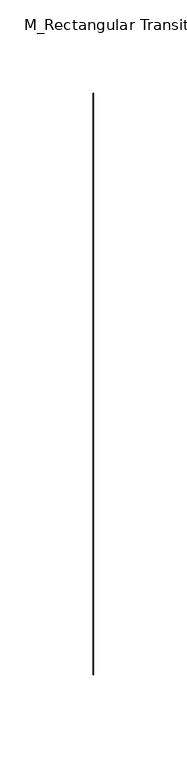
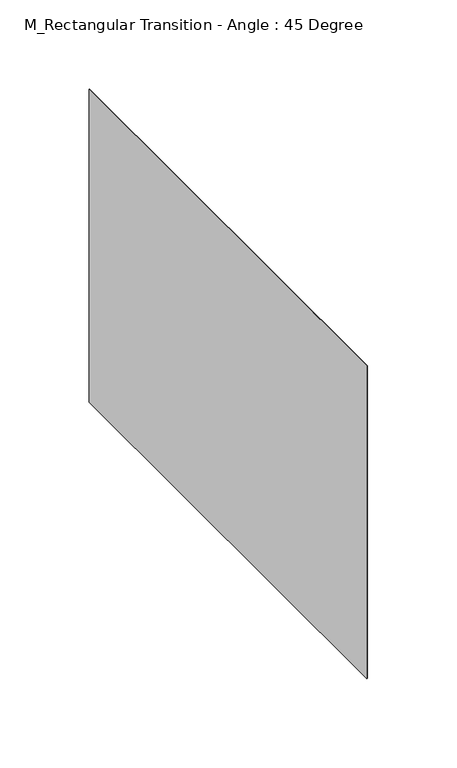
"""IFC4 building model written with IfcOpenShell, lengths in millimetres: duct fitting geometry, M_Rectangular Transition - Angle : 45 Degree."""

import ifcopenshell
import ifcopenshell.guid

model = None  # the IFC model being written
_history = None  # IfcOwnerHistory: only IFC2X3 demands one
_inside = {}  # id of a spatial element -> (the spatial element, [elements in it])
_under = {}  # id of a project, library or spatial element -> (it, [spatial elements below it])
_declared = {}  # id of a project -> (the project, [libraries it declares])
_typed = {}  # id of a type object -> (the type object, [elements of that type])
_made_of = {}  # id of a material, layer set ... -> (it, [elements and type objects made of it])


def new_model(schema):
    """Start an empty IFC model of exactly this schema.

    Asked for "IFC4X3", IfcOpenShell would pick the latest addendum, in which some entities
    have other attributes; the version numbers below select the first issue.
    IFC2X3 requires an IfcOwnerHistory on every rooted entity: one is made here for all.
    """
    global model, _history
    if schema == "IFC4X3":
        model = ifcopenshell.file(schema_version=(4, 3, 0, 0))
    else:
        model = ifcopenshell.file(schema=schema)
    _inside.clear()
    _under.clear()
    _declared.clear()
    _typed.clear()
    _made_of.clear()
    _history = None
    if model.schema == "IFC2X3":
        org = make("IfcOrganization", Name="unknown")
        user = make(
            "IfcPersonAndOrganization",
            ThePerson=make("IfcPerson", FamilyName="unknown"),
            TheOrganization=org,
        )
        app = make(
            "IfcApplication",
            ApplicationDeveloper=org,
            Version="unknown",
            ApplicationFullName="unknown",
            ApplicationIdentifier="unknown",
        )
        _history = make(
            "IfcOwnerHistory",
            OwningUser=user,
            OwningApplication=app,
            ChangeAction="ADDED",
            CreationDate=0,
        )
    return model


def make(cls, **values):
    """One entity of the class cls with the attributes given. An attribute that is None is left unset."""
    return model.create_entity(
        cls, **{name: value for name, value in values.items() if value is not None}
    )


def rooted(cls, **values):
    """An entity with a GlobalId (a new one), such as an element, a storey or a relation."""
    return make(cls, GlobalId=ifcopenshell.guid.new(), OwnerHistory=_history, **values)


def si_unit(unit_type, name, prefix=None):
    """IfcSIUnit, for example si_unit("LENGTHUNIT", "METRE", prefix="MILLI")."""
    return make("IfcSIUnit", UnitType=unit_type, Prefix=prefix, Name=name)


def assignment(units):
    """IfcUnitAssignment: the units of a project."""
    return None if units is None else make("IfcUnitAssignment", Units=units)


def point(xyz):
    """IfcCartesianPoint."""
    return None if xyz is None else make("IfcCartesianPoint", Coordinates=xyz)


def direction(xyz):
    """IfcDirection."""
    return None if xyz is None else make("IfcDirection", DirectionRatios=xyz)


def frame(location, z_axis=None, x_axis=None):
    """IfcAxis2Placement3D, a coordinate frame: its origin and axes. An axis left out is left unset."""
    return make(
        "IfcAxis2Placement3D",
        Location=point(location),
        Axis=direction(z_axis),
        RefDirection=direction(x_axis),
    )


def origin():
    """The frame at (0, 0, 0) with its axes left unset."""
    return frame((0.0, 0.0, 0.0))


def place(relative_to, where):
    """IfcLocalPlacement: puts the frame where relative to a parent placement (None: the world)."""
    return make(
        "IfcLocalPlacement", PlacementRelTo=relative_to, RelativePlacement=where
    )


def context(
    kind, dimensions, precision=None, world=None, true_north=None, identifier=None
):
    """IfcGeometricRepresentationContext, for example the 3D "Model" context."""
    return make(
        "IfcGeometricRepresentationContext",
        ContextIdentifier=identifier,
        ContextType=kind,
        CoordinateSpaceDimension=dimensions,
        Precision=precision,
        WorldCoordinateSystem=world,
        TrueNorth=true_north,
    )


def project(units=None, contexts=None):
    """IfcProject with its units and contexts."""
    return rooted(
        "IfcProject",
        Name="project",
        RepresentationContexts=contexts,
        UnitsInContext=assignment(units),
    )


def spatial(cls, under=None, at=None, **own):
    """A site, building, storey or space (cls), placed at a placement, below another one or the project."""
    s = rooted(cls, ObjectPlacement=at, **own)
    if under is not None:
        _under.setdefault(under.id(), (under, []))[1].append(s)
    return s


def faces_of(points, faces, orient=None, outer=None):
    """IfcFace entities. A face is a list of loops; a loop is a list of indices into points, from 0.

    orient and outer hold one flag for each loop. By default every Orientation is true, the
    first loop of a face is its IfcFaceOuterBound and the others are IfcFaceBound.
    """
    made = []
    for i, loops in enumerate(faces):
        bounds = []
        for j, loop in enumerate(loops):
            is_outer = j == 0 if outer is None else outer[i][j]
            bounds.append(
                make(
                    "IfcFaceOuterBound" if is_outer else "IfcFaceBound",
                    Bound=make("IfcPolyLoop", Polygon=[points[k] for k in loop]),
                    Orientation=True if orient is None else orient[i][j],
                )
            )
        made.append(make("IfcFace", Bounds=bounds))
    return made


def faceted_brep(points, faces, orient=None, outer=None, voids=None):
    """IfcFacetedBrep: a solid bounded by flat faces; with voids (closed shells), ...WithVoids."""
    shared = [point(p) for p in points]
    hull = make("IfcClosedShell", CfsFaces=faces_of(shared, faces, orient, outer))
    if voids is None:
        return make("IfcFacetedBrep", Outer=hull)
    return make(
        "IfcFacetedBrepWithVoids",
        Outer=hull,
        Voids=[
            make(cls, CfsFaces=faces_of(shared, fs, o, b)) for cls, fs, o, b in voids
        ],
    )


def shape(context_of_items, identifier, shape_type, items):
    """IfcShapeRepresentation: the items that make up one representation, for example the "Body"."""
    return make(
        "IfcShapeRepresentation",
        ContextOfItems=context_of_items,
        RepresentationIdentifier=identifier,
        RepresentationType=shape_type,
        Items=items,
    )


def source(mapping_origin, context_of_items, identifier, shape_type, items):
    """IfcRepresentationMap: a shape defined once, which mapped items show again and again."""
    return make(
        "IfcRepresentationMap",
        MappingOrigin=mapping_origin,
        MappedRepresentation=shape(context_of_items, identifier, shape_type, items),
    )


def transform(
    local_origin,
    x_axis=None,
    y_axis=None,
    z_axis=None,
    scale=None,
    scale2=None,
    scale3=None,
    uniform=True,
):
    """IfcCartesianTransformationOperator3D, or its non-uniform kind. x_axis, y_axis, z_axis: its Axis1, 2, 3."""
    if uniform:
        return make(
            "IfcCartesianTransformationOperator3D",
            Axis1=direction(x_axis),
            Axis2=direction(y_axis),
            LocalOrigin=point(local_origin),
            Scale=scale,
            Axis3=direction(z_axis),
        )
    return make(
        "IfcCartesianTransformationOperator3DnonUniform",
        Axis1=direction(x_axis),
        Axis2=direction(y_axis),
        LocalOrigin=point(local_origin),
        Scale=scale,
        Axis3=direction(z_axis),
        Scale2=scale2,
        Scale3=scale3,
    )


def mapped(mapping_source, mapping_target):
    """IfcMappedItem: shows the shape of a source again, moved by a transform."""
    return make(
        "IfcMappedItem", MappingSource=mapping_source, MappingTarget=mapping_target
    )


def made_of(thing, what):
    """Note that an element or type object is made of a material, layer set ...; save() writes the relation."""
    if what is not None:
        _made_of.setdefault(what.id(), (what, []))[1].append(thing)
    return thing


def element(
    cls,
    number,
    at=None,
    inside=None,
    cuts=None,
    type_object=None,
    material=None,
    context=None,
    identifier="Body",
    shape_type=None,
    held_by="IfcProductDefinitionShape",
    body=None,
    shapes=None,
    **own,
):
    """One element of the class cls, such as IfcWall. Its Tag is "e" and its number.

    at: its placement. inside: the storey or other place that contains it. cuts: it is an
    opening in that element (IfcRelVoidsElement). A single representation is given by context,
    identifier, shape_type and body (its items); several are given by shapes. held_by: the class
    of the entity that holds the representations. save() writes the other relations.
    """
    e = rooted(cls, Tag="e%d" % number, ObjectPlacement=at, **own)
    if body is not None:
        shapes = [shape(context, identifier, shape_type, body)]
    if shapes is not None:
        e.Representation = make(held_by, Representations=shapes)
    if inside is not None:
        _inside.setdefault(inside.id(), (inside, []))[1].append(e)
    if cuts is not None:
        rooted(
            "IfcRelVoidsElement", RelatingBuildingElement=cuts, RelatedOpeningElement=e
        )
    if type_object is not None:
        _typed.setdefault(type_object.id(), (type_object, []))[1].append(e)
    return made_of(e, material)


def aggregate(whole, parts):
    """IfcRelAggregates: a whole, such as a stair, and the parts it consists of."""
    return rooted("IfcRelAggregates", RelatingObject=whole, RelatedObjects=parts)


def save(model, path):
    """Write the relations noted so far, then the file.

    IfcRelAggregates (storeys below a building ...), IfcRelContainedInSpatialStructure (elements
    in a storey), IfcRelDefinesByType, IfcRelAssociatesMaterial and IfcRelDeclares: one each for
    every whole, place, type object, material and project.
    """
    for whole, parts in _under.values():
        aggregate(whole, parts)
    for where, things in _inside.values():
        rooted(
            "IfcRelContainedInSpatialStructure",
            RelatedElements=things,
            RelatingStructure=where,
        )
    for kind, things in _typed.values():
        rooted("IfcRelDefinesByType", RelatedObjects=things, RelatingType=kind)
    for what, things in _made_of.values():
        rooted("IfcRelAssociatesMaterial", RelatedObjects=things, RelatingMaterial=what)
    for by, libraries in _declared.values():
        rooted("IfcRelDeclares", RelatingContext=by, RelatedDefinitions=libraries)
    model.write(path)


def m_rectangular_transition_angle_45_degree_5204351f(model_context):
    return source(origin(), model_context, "Body", "Brep", [
        faceted_brep([(0.3319544, -156.0, 107.0), (0.3319544, -156.0, -107.0), (0.3319544, 156.0, -107.0), (0.3319544, 156.0, 107.0), (0.0, -155.9375, 107.1375), (0.0, 155.9375, 107.1375), (0.0, 155.9375, -107.1375), (0.0, -155.9375, -107.1375)], [[[0, 1, 2, 3]], [[4, 5, 6, 7]], [[4, 7, 1, 0]], [[7, 6, 2, 1]], [[6, 5, 3, 2]], [[5, 4, 0, 3]]]),
    ])


if __name__ == "__main__":
    model = new_model("IFC4")
    model_context = context("Model", 3, world=origin())
    ifc_project = project(units=[si_unit("LENGTHUNIT", "METRE", prefix="MILLI")], contexts=[model_context])
    site = spatial("IfcSite", under=ifc_project)
    building = spatial("IfcBuilding", under=site)
    placement = place(None, origin())
    m_rectangular_transition_angle_45_degree_shape = m_rectangular_transition_angle_45_degree_5204351f(model_context)
    element("IfcDuctFitting", 1, ObjectType="M_Rectangular Transition - Angle : 45 Degree", at=placement, inside=building, context=model_context, shape_type="MappedRepresentation", body=[
        mapped(m_rectangular_transition_angle_45_degree_shape, transform((0.0, 0.0, 0.0), x_axis=(1.0, 0.0, 0.0), y_axis=(0.0, 1.0, 0.0), z_axis=(0.0, 0.0, 1.0))),
    ])
    save(model, "model.ifc")
